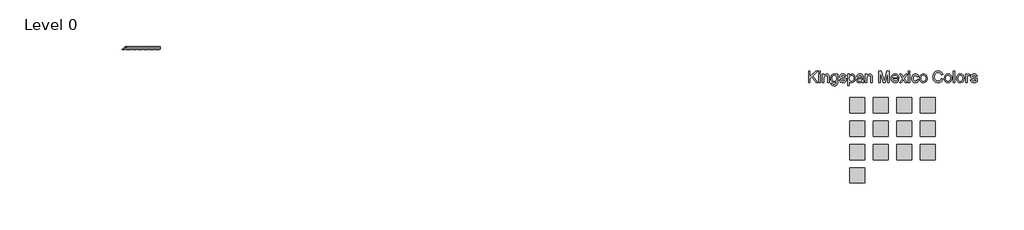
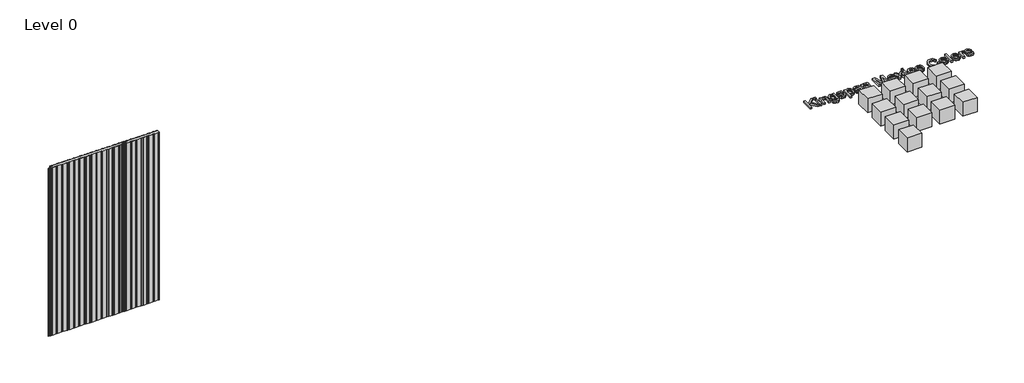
# One storey: 14 proxies, 2 plates.
"""IFC4 building model written with IfcOpenShell, lengths in millimetres."""

from ifc_helpers import new_model, si_unit, origin, place, context, project, spatial, transform, mapped, element, save
from components import generic_models_94ed907e, ks_colour_sample_ks_colour_sample_0243efec, vt_040mm_eb3b59d4, vt_040mm_9a58fd77

model = new_model("IFC4")

# Units and contexts
model_context = context("Model", 3, world=origin())
ifc_project = project(units=[si_unit("LENGTHUNIT", "METRE", prefix="MILLI")], contexts=[model_context])

# Site, building, storey
site = spatial("IfcSite", under=ifc_project)
building = spatial("IfcBuilding", under=site)
storey = spatial("IfcBuildingStorey", under=building, Name="Level 0", Elevation=0.0)

# Proxies
placement = place(None, origin())
generic_models_shape = generic_models_94ed907e(model_context)
element("IfcBuildingElementProxy", 1, Name="KIP-MX_ColourRange_English : KIP-MX_ColourRange_English", ObjectType="KIP-MX_ColourRange_English : KIP-MX_ColourRange_English", at=placement, inside=storey, context=model_context, shape_type="MappedRepresentation", body=[
    mapped(generic_models_shape, transform((1966.0629502, 11802.7493823, 0.0), x_axis=(1.0, 0.0, 0.0), y_axis=(0.0, 1.0, 0.0), z_axis=(0.0, 0.0, 1.0))),
])
ks_colour_sample_ks_colour_sample_shape = ks_colour_sample_ks_colour_sample_0243efec(model_context)
element("IfcBuildingElementProxy", 2, Name="KS_Colour Sample : KS_Colour Sample", ObjectType="KS_Colour Sample : KS_Colour Sample", at=placement, inside=storey, context=model_context, shape_type="MappedRepresentation", body=[
    mapped(ks_colour_sample_ks_colour_sample_shape, transform((1501.0629502, 13781.2299273, 0.0), x_axis=(1.0, 0.0, 0.0), y_axis=(0.0, 1.0, 0.0), z_axis=(0.0, 0.0, 1.0))),
])
element("IfcBuildingElementProxy", 3, Name="KS_Colour Sample : KS_Colour Sample", ObjectType="KS_Colour Sample : KS_Colour Sample", at=placement, inside=storey, context=model_context, shape_type="MappedRepresentation", body=[
    mapped(ks_colour_sample_ks_colour_sample_shape, transform((1811.0629502, 13781.2299273, 0.0), x_axis=(1.0, 0.0, 0.0), y_axis=(0.0, 1.0, 0.0), z_axis=(0.0, 0.0, 1.0))),
])
element("IfcBuildingElementProxy", 4, Name="KS_Colour Sample : KS_Colour Sample", ObjectType="KS_Colour Sample : KS_Colour Sample", at=placement, inside=storey, context=model_context, shape_type="MappedRepresentation", body=[
    mapped(ks_colour_sample_ks_colour_sample_shape, transform((2121.0629502, 13781.2299273, 0.0), x_axis=(1.0, 0.0, 0.0), y_axis=(0.0, 1.0, 0.0), z_axis=(0.0, 0.0, 1.0))),
])
element("IfcBuildingElementProxy", 5, Name="KS_Colour Sample : KS_Colour Sample", ObjectType="KS_Colour Sample : KS_Colour Sample", at=placement, inside=storey, context=model_context, shape_type="MappedRepresentation", body=[
    mapped(ks_colour_sample_ks_colour_sample_shape, transform((2431.0629502, 13781.2299273, 0.0), x_axis=(1.0, 0.0, 0.0), y_axis=(0.0, 1.0, 0.0), z_axis=(0.0, 0.0, 1.0))),
])
element("IfcBuildingElementProxy", 6, Name="KS_Colour Sample : KS_Colour Sample", ObjectType="KS_Colour Sample : KS_Colour Sample", at=placement, inside=storey, context=model_context, shape_type="MappedRepresentation", body=[
    mapped(ks_colour_sample_ks_colour_sample_shape, transform((1501.0629502, 13471.2299273, 0.0), x_axis=(1.0, 0.0, 0.0), y_axis=(0.0, 1.0, 0.0), z_axis=(0.0, 0.0, 1.0))),
])
element("IfcBuildingElementProxy", 7, Name="KS_Colour Sample : KS_Colour Sample", ObjectType="KS_Colour Sample : KS_Colour Sample", at=placement, inside=storey, context=model_context, shape_type="MappedRepresentation", body=[
    mapped(ks_colour_sample_ks_colour_sample_shape, transform((1811.0629502, 13471.2299273, 0.0), x_axis=(1.0, 0.0, 0.0), y_axis=(0.0, 1.0, 0.0), z_axis=(0.0, 0.0, 1.0))),
])
element("IfcBuildingElementProxy", 8, Name="KS_Colour Sample : KS_Colour Sample", ObjectType="KS_Colour Sample : KS_Colour Sample", at=placement, inside=storey, context=model_context, shape_type="MappedRepresentation", body=[
    mapped(ks_colour_sample_ks_colour_sample_shape, transform((2121.0629502, 13471.2299273, 0.0), x_axis=(1.0, 0.0, 0.0), y_axis=(0.0, 1.0, 0.0), z_axis=(0.0, 0.0, 1.0))),
])
element("IfcBuildingElementProxy", 9, Name="KS_Colour Sample : KS_Colour Sample", ObjectType="KS_Colour Sample : KS_Colour Sample", at=placement, inside=storey, context=model_context, shape_type="MappedRepresentation", body=[
    mapped(ks_colour_sample_ks_colour_sample_shape, transform((2431.0629502, 13471.2299273, 0.0), x_axis=(1.0, 0.0, 0.0), y_axis=(0.0, 1.0, 0.0), z_axis=(0.0, 0.0, 1.0))),
])
element("IfcBuildingElementProxy", 10, Name="KS_Colour Sample : KS_Colour Sample", ObjectType="KS_Colour Sample : KS_Colour Sample", at=placement, inside=storey, context=model_context, shape_type="MappedRepresentation", body=[
    mapped(ks_colour_sample_ks_colour_sample_shape, transform((1501.0629502, 13161.2299273, 0.0), x_axis=(1.0, 0.0, 0.0), y_axis=(0.0, 1.0, 0.0), z_axis=(0.0, 0.0, 1.0))),
])
element("IfcBuildingElementProxy", 11, Name="KS_Colour Sample : KS_Colour Sample", ObjectType="KS_Colour Sample : KS_Colour Sample", at=placement, inside=storey, context=model_context, shape_type="MappedRepresentation", body=[
    mapped(ks_colour_sample_ks_colour_sample_shape, transform((1811.0629502, 13161.2299273, 0.0), x_axis=(1.0, 0.0, 0.0), y_axis=(0.0, 1.0, 0.0), z_axis=(0.0, 0.0, 1.0))),
])
element("IfcBuildingElementProxy", 12, Name="KS_Colour Sample : KS_Colour Sample", ObjectType="KS_Colour Sample : KS_Colour Sample", at=placement, inside=storey, context=model_context, shape_type="MappedRepresentation", body=[
    mapped(ks_colour_sample_ks_colour_sample_shape, transform((2121.0629502, 13161.2299273, 0.0), x_axis=(1.0, 0.0, 0.0), y_axis=(0.0, 1.0, 0.0), z_axis=(0.0, 0.0, 1.0))),
])
element("IfcBuildingElementProxy", 13, Name="KS_Colour Sample : KS_Colour Sample", ObjectType="KS_Colour Sample : KS_Colour Sample", at=placement, inside=storey, context=model_context, shape_type="MappedRepresentation", body=[
    mapped(ks_colour_sample_ks_colour_sample_shape, transform((2431.0629502, 13161.2299273, 0.0), x_axis=(1.0, 0.0, 0.0), y_axis=(0.0, 1.0, 0.0), z_axis=(0.0, 0.0, 1.0))),
])
element("IfcBuildingElementProxy", 14, Name="KS_Colour Sample : KS_Colour Sample", ObjectType="KS_Colour Sample : KS_Colour Sample", at=placement, inside=storey, context=model_context, shape_type="MappedRepresentation", body=[
    mapped(ks_colour_sample_ks_colour_sample_shape, transform((1501.0629502, 12851.2299273, 0.0), x_axis=(1.0, 0.0, 0.0), y_axis=(0.0, 1.0, 0.0), z_axis=(0.0, 0.0, 1.0))),
])

# Plates
vt_040mm_shape = vt_040mm_eb3b59d4(model_context)
element("IfcPlate", 15, ObjectType="KIP-MEX-FW-R19-CP-Vt-SL : Vt 040mm", at=placement, inside=storey, context=model_context, shape_type="MappedRepresentation", body=[
    mapped(vt_040mm_shape, transform((-8678.7250934, 14558.8221806, 0.0), x_axis=(1.0, 0.0, 0.0), y_axis=(0.0, 1.0, 0.0), z_axis=(0.0, 0.0, 1.0))),
])
vt_040mm_2_shape = vt_040mm_9a58fd77(model_context)
element("IfcPlate", 16, ObjectType="KIP-MEX-FW-R19-CP-Vt-SL : Vt 040mm", at=placement, inside=storey, context=model_context, shape_type="MappedRepresentation", body=[
    mapped(vt_040mm_2_shape, transform((-7938.7250934, 14558.8221806, 0.0), x_axis=(1.0, 0.0, 0.0), y_axis=(0.0, 1.0, 0.0), z_axis=(0.0, 0.0, 1.0))),
])

save(model, "model.ifc")
